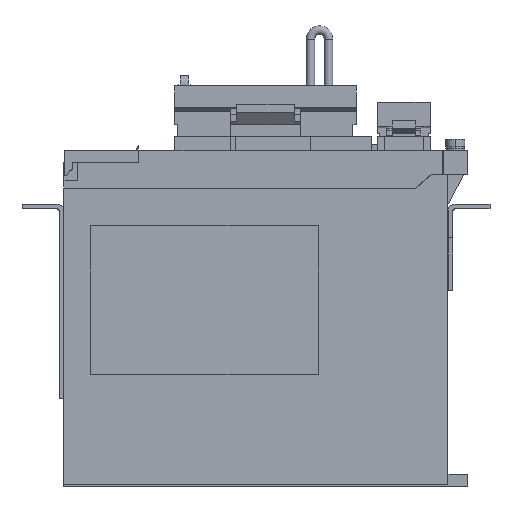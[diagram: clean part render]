
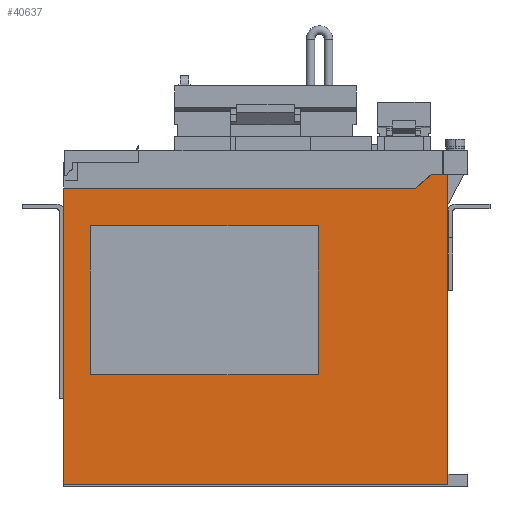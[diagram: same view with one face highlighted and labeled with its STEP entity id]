
A CAD part, left-side view. The second image highlights one B-rep face of the part: STEP entity #40637.
In plain terms, the highlighted planar face has unit normal (-1, 0, 0).
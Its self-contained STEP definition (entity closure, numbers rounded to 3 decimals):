
#8795 = CARTESIAN_POINT ( 'NONE',  ( -35., -155., 0.5 ) ) ;
#8796 = DIRECTION ( 'NONE',  ( 0., 0., -1. ) ) ;
#8797 = VECTOR ( 'NONE', #8796, 1000. ) ;
#8798 = CARTESIAN_POINT ( 'NONE',  ( -35., -155., 288.924 ) ) ;
#8799 = LINE ( 'NONE', #8798, #8797 ) ;
#8800 = CARTESIAN_POINT ( 'NONE',  ( -35., -155., 129.8 ) ) ;
#9461 = CARTESIAN_POINT ( 'NONE',  ( -35., 5., 124. ) ) ;
#9601 = DIRECTION ( 'NONE',  ( 0., 0., -1. ) ) ;
#9602 = VECTOR ( 'NONE', #9601, 1000. ) ;
#9603 = CARTESIAN_POINT ( 'NONE',  ( -35., 5., 288.924 ) ) ;
#9604 = LINE ( 'NONE', #9603, #9602 ) ;
#9605 = CARTESIAN_POINT ( 'NONE',  ( -35., 5., 0.5 ) ) ;
#18609 = LINE ( 'NONE', #18670, #18669 ) ;
#18610 = DIRECTION ( 'NONE',  ( 0., -1., 0. ) ) ;
#18611 = VECTOR ( 'NONE', #18610, 1000. ) ;
#18612 = CARTESIAN_POINT ( 'NONE',  ( -35., 13.365, 124. ) ) ;
#18613 = LINE ( 'NONE', #18612, #18611 ) ;
#18614 = CARTESIAN_POINT ( 'NONE',  ( -35., -141.328, 124. ) ) ;
#18615 = DIRECTION ( 'NONE',  ( 0., -0.755, 0.656 ) ) ;
#18616 = VECTOR ( 'NONE', #18615, 1000. ) ;
#18617 = CARTESIAN_POINT ( 'NONE',  ( -35., -141.328, 124. ) ) ;
#18618 = LINE ( 'NONE', #18617, #18616 ) ;
#18619 = CARTESIAN_POINT ( 'NONE',  ( -35., -148., 129.8 ) ) ;
#18620 = DIRECTION ( 'NONE',  ( 0., -1., 0. ) ) ;
#18621 = VECTOR ( 'NONE', #18620, 1000. ) ;
#18622 = CARTESIAN_POINT ( 'NONE',  ( -35., -153., 129.8 ) ) ;
#18623 = LINE ( 'NONE', #18622, #18621 ) ;
#18624 = DIRECTION ( 'NONE',  ( 0., 1., 0. ) ) ;
#18625 = VECTOR ( 'NONE', #18624, 1000. ) ;
#18626 = CARTESIAN_POINT ( 'NONE',  ( -35., -6., 108.5 ) ) ;
#18627 = LINE ( 'NONE', #18626, #18625 ) ;
#18641 = CARTESIAN_POINT ( 'NONE',  ( -35., -6., 108.5 ) ) ;
#18642 = DIRECTION ( 'NONE',  ( 0., 0., -1. ) ) ;
#18643 = VECTOR ( 'NONE', #18642, 1000. ) ;
#18644 = CARTESIAN_POINT ( 'NONE',  ( -35., -6., 46.5 ) ) ;
#18645 = LINE ( 'NONE', #18644, #18643 ) ;
#18646 = CARTESIAN_POINT ( 'NONE',  ( -35., -6., 46.5 ) ) ;
#18647 = DIRECTION ( 'NONE',  ( 0., -1., 0. ) ) ;
#18648 = VECTOR ( 'NONE', #18647, 1000. ) ;
#18649 = CARTESIAN_POINT ( 'NONE',  ( -35., -6., 46.5 ) ) ;
#18650 = LINE ( 'NONE', #18649, #18648 ) ;
#18651 = CARTESIAN_POINT ( 'NONE',  ( -35., -101., 108.5 ) ) ;
#18652 = CARTESIAN_POINT ( 'NONE',  ( -35., -101., 46.5 ) ) ;
#18653 = DIRECTION ( 'NONE',  ( 0., 0., 1. ) ) ;
#18654 = VECTOR ( 'NONE', #18653, 1000. ) ;
#18655 = CARTESIAN_POINT ( 'NONE',  ( -35., -101., 46.5 ) ) ;
#18656 = LINE ( 'NONE', #18655, #18654 ) ;
#18657 = DIRECTION ( 'NONE',  ( 0., 0., -1. ) ) ;
#18658 = DIRECTION ( 'NONE',  ( 1., 0., 0. ) ) ;
#18659 = CARTESIAN_POINT ( 'NONE',  ( -35., 5., 288.924 ) ) ;
#18660 = AXIS2_PLACEMENT_3D ( 'NONE', #18659, #18658, #18657 ) ;
#18661 = PLANE ( 'NONE',  #18660 ) ;
#18662 = FACE_OUTER_BOUND ( 'NONE', #40650, .T. ) ;
#18663 = FACE_BOUND ( 'NONE', #40638, .T. ) ;
#18668 = DIRECTION ( 'NONE',  ( 0., -1., 0. ) ) ;
#18669 = VECTOR ( 'NONE', #18668, 1000. ) ;
#18670 = CARTESIAN_POINT ( 'NONE',  ( -35., 5., 0.5 ) ) ;
#34660 = VERTEX_POINT ( 'NONE', #8800 ) ;
#34662 = EDGE_CURVE ( 'NONE', #34660, #34663, #8799, .T. ) ;
#34663 = VERTEX_POINT ( 'NONE', #8795 ) ;
#35062 = VERTEX_POINT ( 'NONE', #9461 ) ;
#35130 = VERTEX_POINT ( 'NONE', #9605 ) ;
#35132 = EDGE_CURVE ( 'NONE', #35062, #35130, #9604, .T. ) ;
#40622 = EDGE_CURVE ( 'NONE', #40642, #40648, #18627, .T. ) ;
#40623 = ORIENTED_EDGE ( 'NONE', *, *, #34662, .F. ) ;
#40624 = ORIENTED_EDGE ( 'NONE', *, *, #40625, .F. ) ;
#40625 = EDGE_CURVE ( 'NONE', #40626, #34660, #18623, .T. ) ;
#40626 = VERTEX_POINT ( 'NONE', #18619 ) ;
#40627 = ORIENTED_EDGE ( 'NONE', *, *, #40628, .F. ) ;
#40628 = EDGE_CURVE ( 'NONE', #40629, #40626, #18618, .T. ) ;
#40629 = VERTEX_POINT ( 'NONE', #18614 ) ;
#40630 = ORIENTED_EDGE ( 'NONE', *, *, #40631, .F. ) ;
#40631 = EDGE_CURVE ( 'NONE', #35062, #40629, #18613, .T. ) ;
#40632 = ORIENTED_EDGE ( 'NONE', *, *, #35132, .T. ) ;
#40633 = ORIENTED_EDGE ( 'NONE', *, *, #40634, .T. ) ;
#40634 = EDGE_CURVE ( 'NONE', #35130, #34663, #18609, .T. ) ;
#40637 = ADVANCED_FACE ( 'NONE', ( #18663, #18662 ), #18661, .F. ) ;
#40638 = EDGE_LOOP ( 'NONE', ( #40639, #40643, #40646, #40649 ) ) ;
#40639 = ORIENTED_EDGE ( 'NONE', *, *, #40640, .F. ) ;
#40640 = EDGE_CURVE ( 'NONE', #40641, #40642, #18656, .T. ) ;
#40641 = VERTEX_POINT ( 'NONE', #18652 ) ;
#40642 = VERTEX_POINT ( 'NONE', #18651 ) ;
#40643 = ORIENTED_EDGE ( 'NONE', *, *, #40644, .F. ) ;
#40644 = EDGE_CURVE ( 'NONE', #40645, #40641, #18650, .T. ) ;
#40645 = VERTEX_POINT ( 'NONE', #18646 ) ;
#40646 = ORIENTED_EDGE ( 'NONE', *, *, #40647, .F. ) ;
#40647 = EDGE_CURVE ( 'NONE', #40648, #40645, #18645, .T. ) ;
#40648 = VERTEX_POINT ( 'NONE', #18641 ) ;
#40649 = ORIENTED_EDGE ( 'NONE', *, *, #40622, .F. ) ;
#40650 = EDGE_LOOP ( 'NONE', ( #40623, #40624, #40627, #40630, #40632, #40633 ) ) ;
